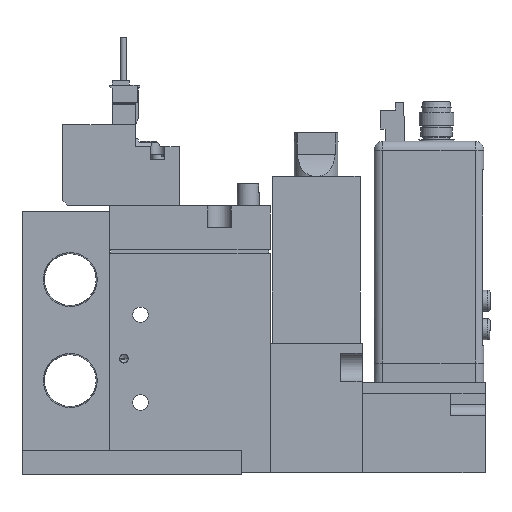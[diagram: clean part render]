
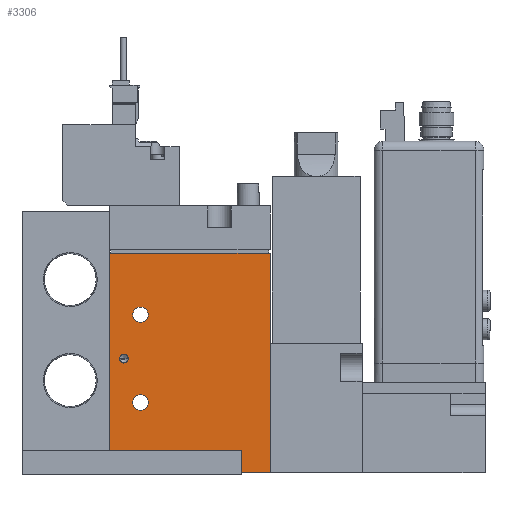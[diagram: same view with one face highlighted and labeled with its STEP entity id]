
A CAD part, left-side view. The second image highlights one B-rep face of the part: STEP entity #3306.
In plain terms, the highlighted planar face has unit normal (-1, 0, 0) as drawn and (1, 0, 0) by its records, which use the part's own axes.
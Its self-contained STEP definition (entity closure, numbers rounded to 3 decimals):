
#3306=ADVANCED_FACE('',(#6819,#6820,#6821,#6822),#6823,.F.);
#6819=FACE_BOUND('',#12106,.T.);
#6820=FACE_BOUND('',#12107,.T.);
#6821=FACE_BOUND('',#12108,.T.);
#6822=FACE_OUTER_BOUND('',#12109,.T.);
#6823=PLANE('',#12110);
#12106=EDGE_LOOP('',(#22520));
#12107=EDGE_LOOP('',(#22521));
#12108=EDGE_LOOP('',(#22522));
#12109=EDGE_LOOP('',(#22523,#22524,#22525,#22526));
#12110=AXIS2_PLACEMENT_3D('',#22527,#22528,#22529);
#22520=ORIENTED_EDGE('',*,*,#35672,.F.);
#22521=ORIENTED_EDGE('',*,*,#35673,.T.);
#22522=ORIENTED_EDGE('',*,*,#35674,.T.);
#22523=ORIENTED_EDGE('',*,*,#35667,.T.);
#22524=ORIENTED_EDGE('',*,*,#35664,.F.);
#22525=ORIENTED_EDGE('',*,*,#35675,.F.);
#22526=ORIENTED_EDGE('',*,*,#35669,.T.);
#22527=CARTESIAN_POINT('',(8.5,-19.444,50.0));
#22528=DIRECTION('',(-1.0,0.0,0.0));
#22529=DIRECTION('',(0.0,0.0,1.0));
#35664=EDGE_CURVE('',#42930,#42928,#42932,.T.);
#35667=EDGE_CURVE('',#42937,#42928,#42938,.T.);
#35669=EDGE_CURVE('',#42940,#42937,#42941,.T.);
#35672=EDGE_CURVE('',#42945,#42945,#42946,.T.);
#35673=EDGE_CURVE('',#42947,#42947,#42948,.T.);
#35674=EDGE_CURVE('',#42949,#42949,#42950,.T.);
#35675=EDGE_CURVE('',#42940,#42930,#42951,.T.);
#42928=VERTEX_POINT('',#54472);
#42930=VERTEX_POINT('',#54475);
#42932=LINE('',#54478,#54479);
#42937=VERTEX_POINT('',#54484);
#42938=LINE('',#54485,#54486);
#42940=VERTEX_POINT('',#54489);
#42941=LINE('',#54490,#54491);
#42945=VERTEX_POINT('',#54496);
#42946=CIRCLE('',#54497,1.0);
#42947=VERTEX_POINT('',#54498);
#42948=CIRCLE('',#54499,1.75);
#42949=VERTEX_POINT('',#54500);
#42950=CIRCLE('',#54501,1.75);
#42951=LINE('',#54502,#54503);
#54472=CARTESIAN_POINT('',(8.5,17.056,0.0));
#54475=CARTESIAN_POINT('',(8.5,17.056,50.0));
#54478=CARTESIAN_POINT('',(8.5,17.056,50.0));
#54479=VECTOR('',#66041,1.0);
#54484=CARTESIAN_POINT('',(8.5,-19.444,0.0));
#54485=CARTESIAN_POINT('',(8.5,-19.444,0.0));
#54486=VECTOR('',#66048,1.0);
#54489=CARTESIAN_POINT('',(8.5,-19.444,50.0));
#54490=CARTESIAN_POINT('',(8.5,-19.444,50.0));
#54491=VECTOR('',#66050,1.0);
#54496=CARTESIAN_POINT('',(8.5,-17.244,26.0));
#54497=AXIS2_PLACEMENT_3D('',#66055,#66056,#66057);
#54498=CARTESIAN_POINT('',(8.5,-10.694,36.0));
#54499=AXIS2_PLACEMENT_3D('',#66058,#66059,#66060);
#54500=CARTESIAN_POINT('',(8.5,-10.694,16.0));
#54501=AXIS2_PLACEMENT_3D('',#66061,#66062,#66063);
#54502=CARTESIAN_POINT('',(8.5,-19.444,50.0));
#54503=VECTOR('',#66064,1.0);
#66041=DIRECTION('',(0.0,0.0,-1.0));
#66048=DIRECTION('',(0.0,1.0,0.0));
#66050=DIRECTION('',(0.0,0.0,-1.0));
#66055=CARTESIAN_POINT('',(8.5,-16.244,26.0));
#66056=DIRECTION('',(1.0,0.,0.0));
#66057=DIRECTION('',(0.,-1.0,0.0));
#66058=CARTESIAN_POINT('',(8.5,-12.444,36.0));
#66059=DIRECTION('',(-1.0,0.0,0.0));
#66060=DIRECTION('',(0.0,1.0,0.0));
#66061=CARTESIAN_POINT('',(8.5,-12.444,16.0));
#66062=DIRECTION('',(-1.0,0.0,0.0));
#66063=DIRECTION('',(0.0,1.0,0.0));
#66064=DIRECTION('',(0.0,1.0,0.0));
